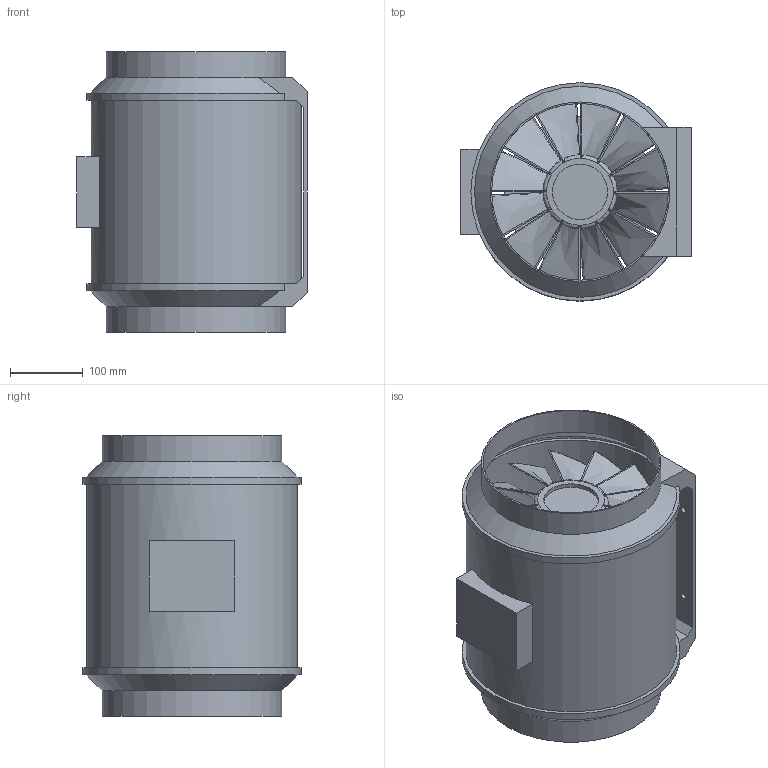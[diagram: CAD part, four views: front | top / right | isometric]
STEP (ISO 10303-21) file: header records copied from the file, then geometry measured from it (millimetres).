
FILE_DESCRIPTION(/* description */ (''),/* implementation_level */ '2;1');
FILE_NAME(/* name */ 'Z:\Output\MV_250-06056-004.stp',/* time_stamp */ '2022-07-25T13:49:15+02:00',/* author */ ('engineering1'),/* organization */ (''),/* preprocessor_version */ 'ST-DEVELOPER v17.2',/* originating_system */ 'Autodesk Inventor 2019',/* authorisation */ '');
FILE_SCHEMA (('AUTOMOTIVE_DESIGN { 1 0 10303 214 3 1 1 }'));
Length unit declared in the file: millimetre
Products named in the file (1): MV-1USER
Bounding box: 317 x 300 x 385 mm (x, y, z)
Volume: 9643623 mm3; surface area: 1258566 mm2
Topology: 3 solids, 3 shells, 314 faces, 764 edges, 503 vertices
Faces by surface type: plane 237, bspline 36, cylinder 22, torus 13, cone 6
Full cylindrical faces by diameter (mm): 8 x4, 75.857 x1, 89.857 x1, 101.857 x1, 207 x1, 243 x2, 247 x2, 286 x1, 290 x1, 296 x2, 300 x2
Entity records: 10483 total; most frequent: CARTESIAN_POINT 2826, ORIENTED_EDGE 1528, DIRECTION 1426, EDGE_CURVE 764, LINE 508, VECTOR 508, VERTEX_POINT 503, AXIS2_PLACEMENT_3D 459
